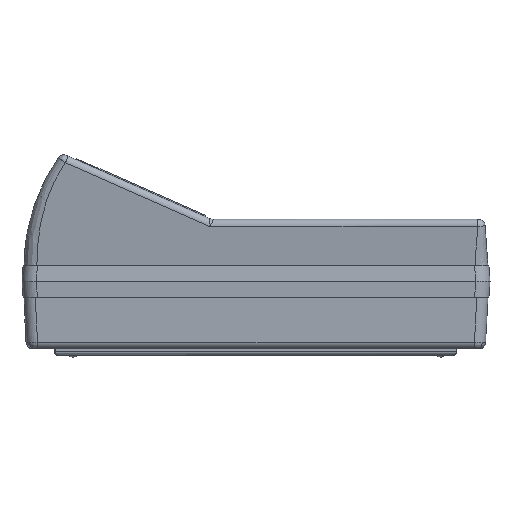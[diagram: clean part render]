
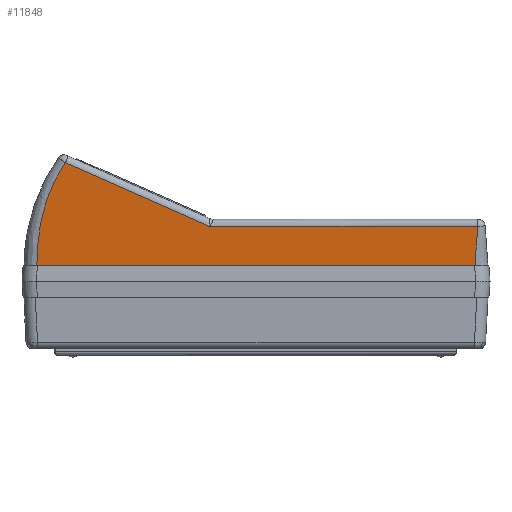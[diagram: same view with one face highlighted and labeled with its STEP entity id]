
A CAD part, top view. The second image highlights one B-rep face of the part: STEP entity #11848.
In plain terms, the highlighted planar face has unit normal (0, -0.122, 0.993).
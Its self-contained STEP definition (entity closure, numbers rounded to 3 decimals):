
#1836 = CARTESIAN_POINT ( 'NONE',  ( -72.75, 0., 45.3 ) ) ;
#2199 = ORIENTED_EDGE ( 'NONE', *, *, #21897, .T. ) ;
#3074 = CARTESIAN_POINT ( 'NONE',  ( 69.653, 8.142, 46.3 ) ) ;
#3656 = VECTOR ( 'NONE', #13683, 1000. ) ;
#3832 = VECTOR ( 'NONE', #13809, 1000. ) ;
#3855 = DIRECTION ( 'NONE',  ( 0., -0.993, -0.122 ) ) ;
#3901 = CARTESIAN_POINT ( 'NONE',  ( -72.75, 0., 45.3 ) ) ;
#4213 = EDGE_CURVE ( 'NONE', #16962, #11483, #9609, .T. ) ;
#4267 = EDGE_CURVE ( 'NONE', #11483, #15702, #6355, .T. ) ;
#4936 = B_SPLINE_CURVE_WITH_KNOTS ( 'NONE', 3,
 ( #13005, #24927, #3074, #17009, #5114, #18979, #7112 ),
 .UNSPECIFIED., .F., .F.,
 ( 4, 3, 4 ),
 ( 0.412, 0.599, 0.6 ),
 .UNSPECIFIED. ) ;
#5114 = CARTESIAN_POINT ( 'NONE',  ( 69.37, 12.192, 46.797 ) ) ;
#5492 = EDGE_LOOP ( 'NONE', ( #9176, #16587, #2199, #21681, #23856 ) ) ;
#5674 = VERTEX_POINT ( 'NONE', #12879 ) ;
#5773 = CARTESIAN_POINT ( 'NONE',  ( -59.787, 32.257, 49.261 ) ) ;
#5868 = CARTESIAN_POINT ( 'NONE',  ( -65.674, 24.002, 48.247 ) ) ;
#6355 = B_SPLINE_CURVE_WITH_KNOTS ( 'NONE', 3,
 ( #23786, #5868, #17761, #11870 ),
 .UNSPECIFIED., .F., .F.,
 ( 4, 4 ),
 ( 0., 1. ),
 .UNSPECIFIED. ) ;
#7112 = CARTESIAN_POINT ( 'NONE',  ( 69.366, 12.256, 46.805 ) ) ;
#9176 = ORIENTED_EDGE ( 'NONE', *, *, #4213, .T. ) ;
#9609 = LINE ( 'NONE', #15705, #3656 ) ;
#9951 = FACE_OUTER_BOUND ( 'NONE', #5492, .T. ) ;
#9997 = LINE ( 'NONE', #17516, #25249 ) ;
#11483 = VERTEX_POINT ( 'NONE', #5773 ) ;
#11848 = ADVANCED_FACE ( 'NONE', ( #9951 ), #23688, .T. ) ;
#11870 = CARTESIAN_POINT ( 'NONE',  ( -68.748, 0., 45.3 ) ) ;
#11937 = CARTESIAN_POINT ( 'NONE',  ( -14.472, 12.256, 46.805 ) ) ;
#12879 = CARTESIAN_POINT ( 'NONE',  ( 69.366, 12.256, 46.805 ) ) ;
#13005 = CARTESIAN_POINT ( 'NONE',  ( 68.708, 0., 45.3 ) ) ;
#13523 = DIRECTION ( 'NONE',  ( -1., 0., 0. ) ) ;
#13683 = DIRECTION ( 'NONE',  ( -0.914, 0.403, 0.05 ) ) ;
#13759 = AXIS2_PLACEMENT_3D ( 'NONE', #1836, #15792, #3855 ) ;
#13809 = DIRECTION ( 'NONE',  ( 1., 0., 0. ) ) ;
#15702 = VERTEX_POINT ( 'NONE', #18777 ) ;
#15705 = CARTESIAN_POINT ( 'NONE',  ( -61.859, 33.171, 49.373 ) ) ;
#15792 = DIRECTION ( 'NONE',  ( 0., -0.122, 0.993 ) ) ;
#16587 = ORIENTED_EDGE ( 'NONE', *, *, #4267, .T. ) ;
#16962 = VERTEX_POINT ( 'NONE', #11937 ) ;
#17009 = CARTESIAN_POINT ( 'NONE',  ( 69.372, 12.16, 46.793 ) ) ;
#17516 = CARTESIAN_POINT ( 'NONE',  ( -14.05, 12.256, 46.805 ) ) ;
#17760 = EDGE_CURVE ( 'NONE', #22350, #5674, #4936, .T. ) ;
#17761 = CARTESIAN_POINT ( 'NONE',  ( -68.661, 13.25, 46.927 ) ) ;
#18777 = CARTESIAN_POINT ( 'NONE',  ( -68.748, 0., 45.3 ) ) ;
#18979 = CARTESIAN_POINT ( 'NONE',  ( 69.368, 12.224, 46.801 ) ) ;
#19244 = CARTESIAN_POINT ( 'NONE',  ( 68.708, 0., 45.3 ) ) ;
#19692 = LINE ( 'NONE', #3901, #3832 ) ;
#21681 = ORIENTED_EDGE ( 'NONE', *, *, #17760, .T. ) ;
#21897 = EDGE_CURVE ( 'NONE', #15702, #22350, #19692, .T. ) ;
#22350 = VERTEX_POINT ( 'NONE', #19244 ) ;
#23688 = PLANE ( 'NONE',  #13759 ) ;
#23786 = CARTESIAN_POINT ( 'NONE',  ( -59.787, 32.257, 49.261 ) ) ;
#23856 = ORIENTED_EDGE ( 'NONE', *, *, #24174, .T. ) ;
#24174 = EDGE_CURVE ( 'NONE', #5674, #16962, #9997, .T. ) ;
#24927 = CARTESIAN_POINT ( 'NONE',  ( 68.492, 4.023, 45.794 ) ) ;
#25249 = VECTOR ( 'NONE', #13523, 1000. ) ;
